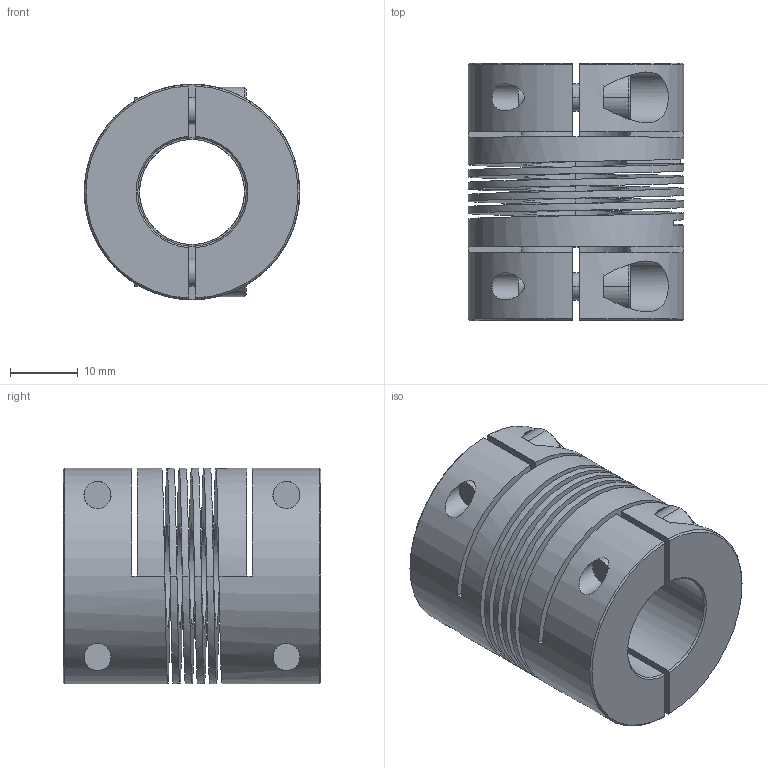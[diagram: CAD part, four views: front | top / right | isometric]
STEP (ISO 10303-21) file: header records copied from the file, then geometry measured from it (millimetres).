
FILE_DESCRIPTION((''),'2;1');
FILE_NAME('821_32','2006-12-13T',('garym'),(''),'PRO/ENGINEER BY PARAMETRIC TECHNOLOGY CORPORATION, 2006010','PRO/ENGINEER BY PARAMETRIC TECHNOLOGY CORPORATION, 2006010','');
FILE_SCHEMA(('CONFIG_CONTROL_DESIGN'));
Length unit declared in the file: millimetre
Products named in the file (1): 821_32
Bounding box: 31.8 x 38 x 31.8 mm (x, y, z)
Volume: 18861.1 mm3; surface area: 14941.1 mm2
Topology: 1 solids, 1 shells, 147 faces, 373 edges, 238 vertices
Faces by surface type: plane 72, cylinder 55, cone 16, bspline 4
Entity records: 5979 total; most frequent: CARTESIAN_POINT 2452, ORIENTED_EDGE 746, DIRECTION 681, EDGE_CURVE 373, AXIS2_PLACEMENT_3D 243, VERTEX_POINT 238, VECTOR 195, LINE 195
